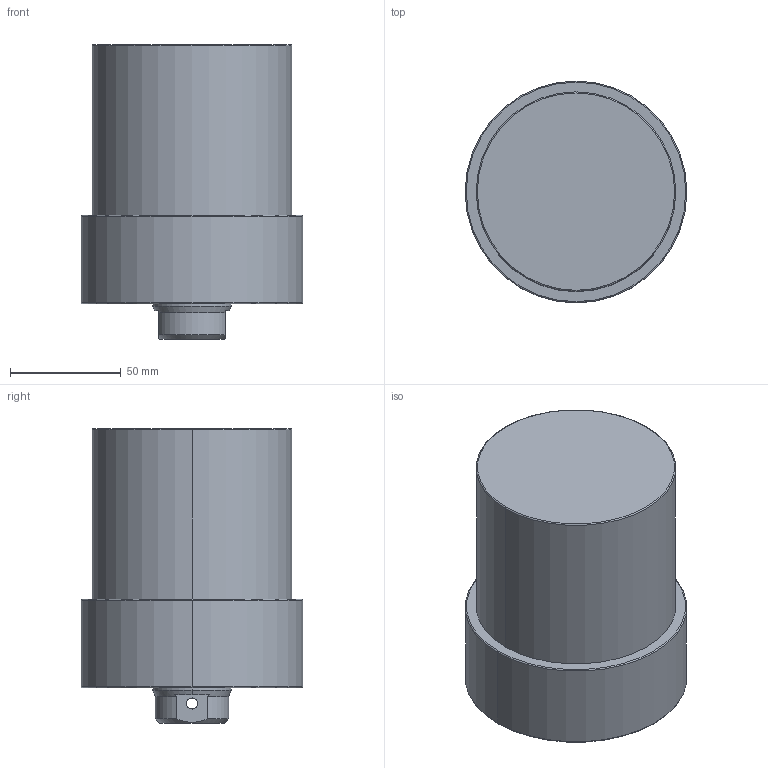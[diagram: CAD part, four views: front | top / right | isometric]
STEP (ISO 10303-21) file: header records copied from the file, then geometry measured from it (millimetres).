
FILE_DESCRIPTION (( 'STEP AP203' ), '1' );
FILE_NAME ('CLLU-090GB-055.STEP', '2020-01-11T00:59:09', ( '' ), ( '' ), 'SwSTEP 2.0', 'SolidWorks 2015', '' );
FILE_SCHEMA (( 'CONFIG_CONTROL_DESIGN' ));
Length unit declared in the file: millimetre
Products named in the file (1): CLLU-090GB-055
Bounding box: 100 x 100 x 133 mm (x, y, z)
Volume: 799312.6 mm3; surface area: 56743.8 mm2
Topology: 1 solids, 1 shells, 66 faces, 154 edges, 87 vertices
Faces by surface type: cylinder 26, cone 24, plane 10, torus 6
Entity records: 2029 total; most frequent: CARTESIAN_POINT 458, DIRECTION 342, ORIENTED_EDGE 288, EDGE_CURVE 144, AXIS2_PLACEMENT_3D 143, VERTEX_POINT 87, EDGE_LOOP 77, CIRCLE 76
